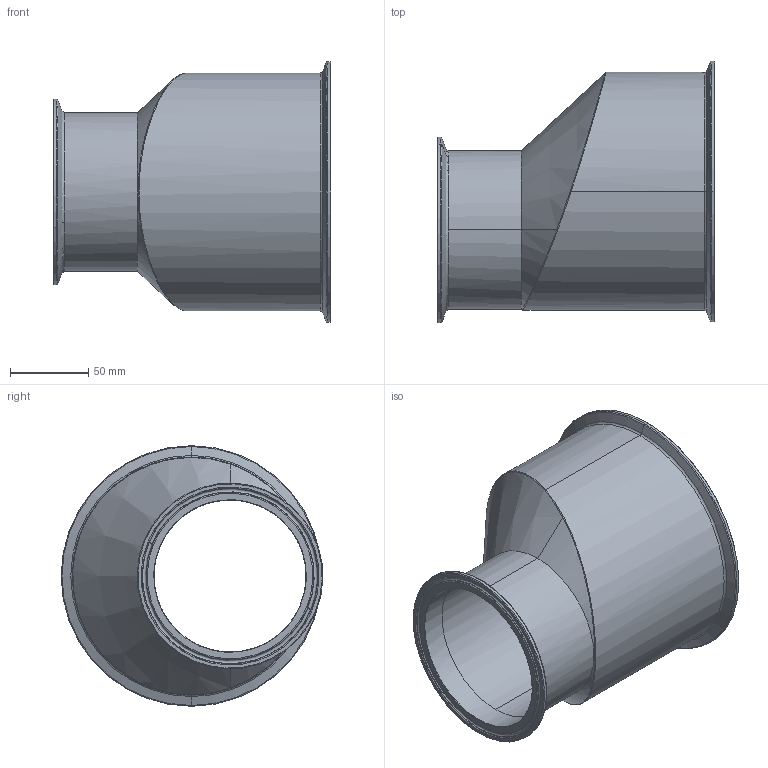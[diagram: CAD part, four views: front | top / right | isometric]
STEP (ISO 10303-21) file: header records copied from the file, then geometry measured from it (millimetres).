
FILE_DESCRIPTION (( 'STEP AP214' ), '1' );
FILE_NAME ('TEG32SCC6L6.0x4.0-...STEP', '2016-06-02T11:20:03', ( 'eran' ), ( '' ), 'SwSTEP 2.0', 'SolidWorks 2016', '' );
FILE_SCHEMA (( 'AUTOMOTIVE_DESIGN' ));
Length unit declared in the file: inch
Products named in the file (1): TEG32SCC6L6.0x4.0-..
Bounding box: 177.78 x 167.62 x 166.88 mm (x, y, z)
Volume: 630772.9 mm3; surface area: 157860 mm2
Topology: 1 solids, 1 shells, 68 faces, 150 edges, 84 vertices
Faces by surface type: cone 24, torus 22, cylinder 14, bspline 4, plane 4
Entity records: 3749 total; most frequent: CARTESIAN_POINT 1327, DIRECTION 349, ORIENTED_EDGE 296, AXIS2_PLACEMENT_3D 156, EDGE_CURVE 148, CIRCLE 91, VERTEX_POINT 84, EDGE_LOOP 72
